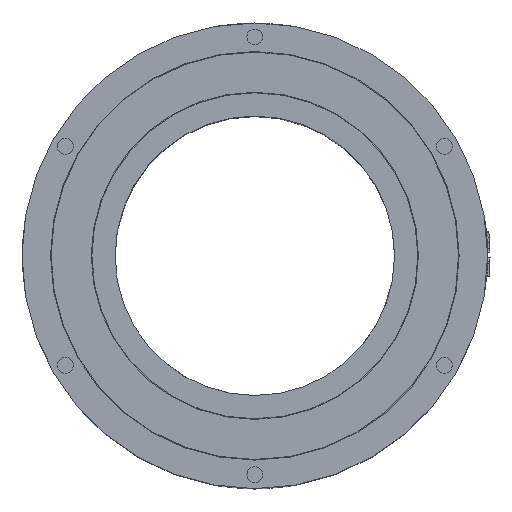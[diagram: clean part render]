
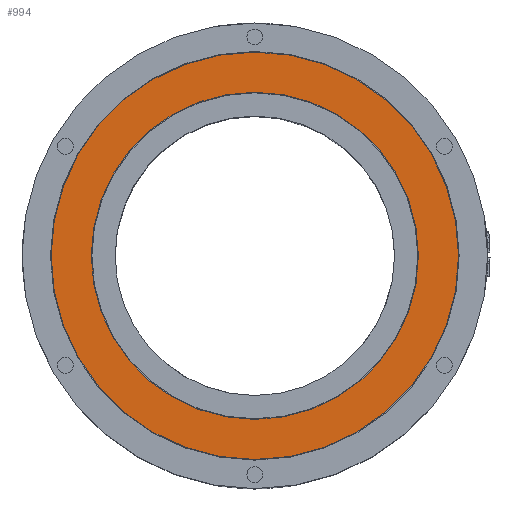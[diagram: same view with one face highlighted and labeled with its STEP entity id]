
A CAD part, top view. The second image highlights one B-rep face of the part: STEP entity #994.
In plain terms, the highlighted planar face has unit normal (0, 0, 1).
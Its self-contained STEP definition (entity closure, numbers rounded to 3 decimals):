
#683=PLANE('',#7140);
#994=ADVANCED_FACE('',(#2304,#2305),#683,.F.);
#2183=CIRCLE('',#7137,87.5);
#2184=CIRCLE('',#7139,70.25);
#2304=FACE_BOUND('',#2759,.T.);
#2305=FACE_BOUND('',#2760,.T.);
#2759=EDGE_LOOP('',(#4278));
#2760=EDGE_LOOP('',(#4279));
#4278=ORIENTED_EDGE('',*,*,#6255,.F.);
#4279=ORIENTED_EDGE('',*,*,#6254,.T.);
#5357=VERTEX_POINT('',#15252);
#5358=VERTEX_POINT('',#15255);
#6254=EDGE_CURVE('',#5357,#5357,#2183,.T.);
#6255=EDGE_CURVE('',#5358,#5358,#2184,.T.);
#7137=AXIS2_PLACEMENT_3D('',#15251,#8194,#8195);
#7139=AXIS2_PLACEMENT_3D('',#15254,#8198,#8199);
#7140=AXIS2_PLACEMENT_3D('',#15256,#8200,#8201);
#8194=DIRECTION('',(0.,0.,1.));
#8195=DIRECTION('',(1.,0.,0.));
#8198=DIRECTION('',(0.,0.,1.));
#8199=DIRECTION('',(-1.,0.,0.));
#8200=DIRECTION('',(0.,0.,-1.));
#8201=DIRECTION('',(-1.,0.,0.));
#15251=CARTESIAN_POINT('',(0.,0.,123.));
#15252=CARTESIAN_POINT('',(87.5,0.,123.));
#15254=CARTESIAN_POINT('',(0.,0.,123.));
#15255=CARTESIAN_POINT('',(-70.25,0.,123.));
#15256=CARTESIAN_POINT('',(0.,0.,123.));
